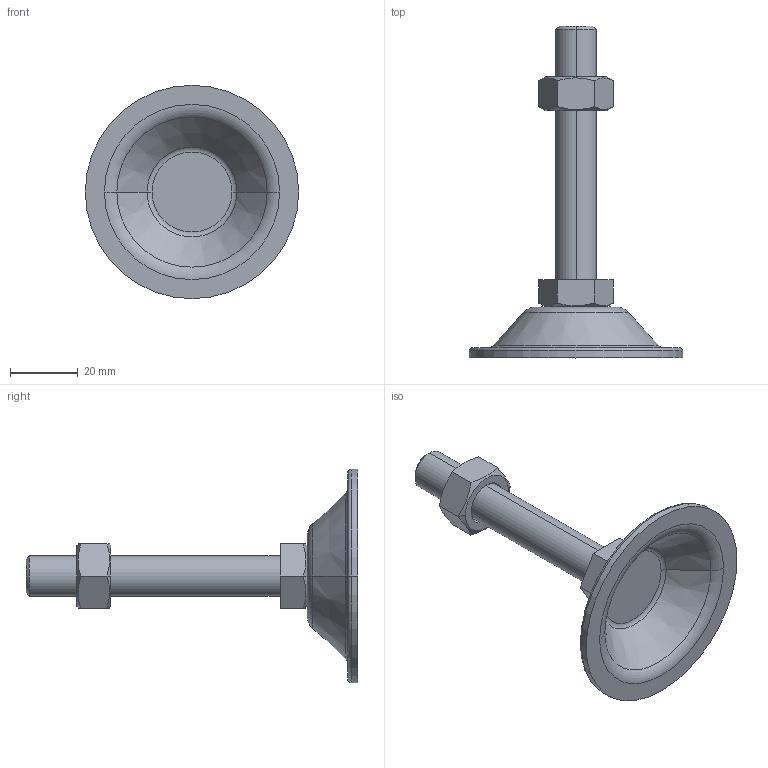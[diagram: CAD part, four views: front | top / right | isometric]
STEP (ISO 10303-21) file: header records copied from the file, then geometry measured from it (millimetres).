
FILE_DESCRIPTION (( 'STEP AP214' ), '1' );
FILE_NAME ('BL63-M12-75.step', '2021-01-06T05:38:38', ( '' ), ( '' ), 'SwSTEP 2.0', 'SolidWorks 2019', '' );
FILE_SCHEMA (( 'AUTOMOTIVE_DESIGN' ));
Length unit declared in the file: millimetre
Products named in the file (1): BL63-M12-75
Bounding box: 63 x 98 x 63 mm (x, y, z)
Volume: 23945.5 mm3; surface area: 13186.7 mm2
Topology: 3 solids, 3 shells, 53 faces, 110 edges, 66 vertices
Faces by surface type: plane 21, cone 16, torus 10, cylinder 6
Entity records: 1618 total; most frequent: CARTESIAN_POINT 428, DIRECTION 252, ORIENTED_EDGE 220, EDGE_CURVE 110, AXIS2_PLACEMENT_3D 106, VERTEX_POINT 66, EDGE_LOOP 58, ADVANCED_FACE 53
